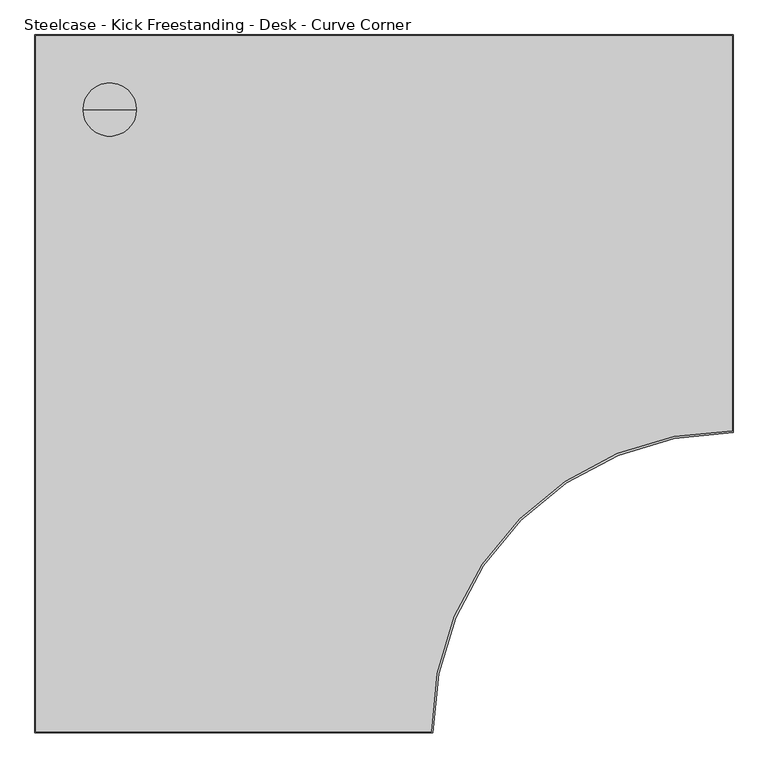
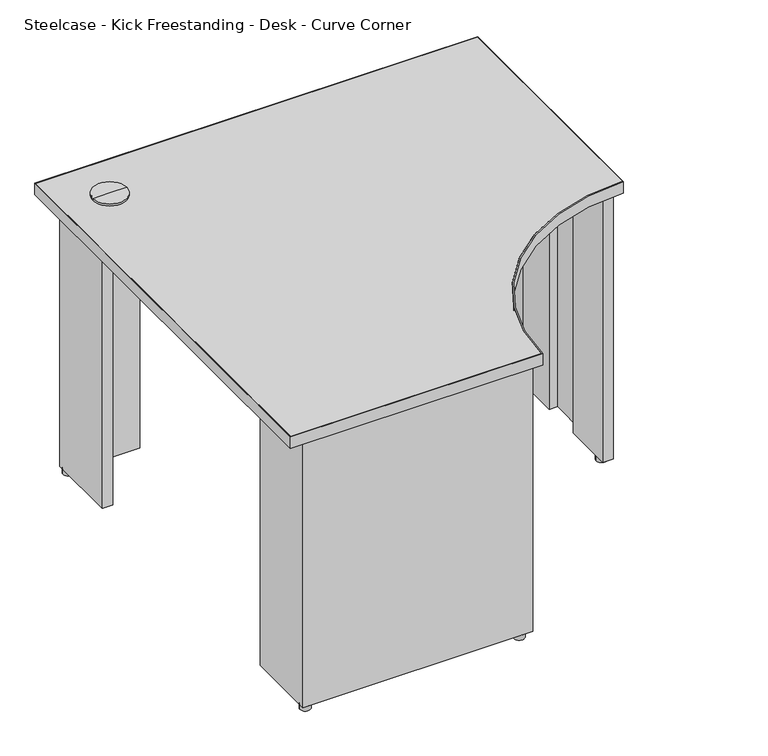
"""IFC4 building model written with IfcOpenShell, lengths in millimetres: furniture geometry, Steelcase - Kick Freestanding - Desk - Curve Corner : 24D x 42W - Two Full Panel - LPL."""

from ifc_helpers import new_model, si_unit, point, frame, frame_2d, origin, origin_with_axes, place, context, project, spatial, polyline, circle_curve, trimmed, segment, composite_curve, outline, extrude, source, transform, mapped, element, save
from ifc_brep_helpers import plane_surface, cylinder_surface, advanced_brep


def steelcase_kick_freestanding_desk_curve_corner_ed75282a(model_context):
    return source(origin(), model_context, "Body", "SolidModel", [
        extrude(outline(composite_curve([segment(trimmed(circle_curve(frame_2d((1038.8853521, -565.8064761)), 12.7), [point((1026.1853521, -565.8064761))], [point((1051.5853521, -565.8064761))], False, "CARTESIAN"), True, "CONTINUOUS"), segment(trimmed(circle_curve(frame_2d((1038.8853521, -565.8064761)), 12.7), [point((1051.5853521, -565.8064761))], [point((1026.1853521, -565.8064761))], False, "CARTESIAN"), True, "CONTINUOUS")], self_intersect=False)), origin_with_axes(), (0.0, 0.0, 1.0), 12.446),
        extrude(outline(composite_curve([segment(trimmed(circle_curve(frame_2d((566.7971133, -1039.8759893)), 12.7), [point((554.0971133, -1039.8759893))], [point((579.4971133, -1039.8759893))], False, "CARTESIAN"), True, "CONTINUOUS"), segment(trimmed(circle_curve(frame_2d((566.7971133, -1039.8759893)), 12.7), [point((579.4971133, -1039.8759893))], [point((554.0971133, -1039.8759893))], False, "CARTESIAN"), True, "CONTINUOUS")], self_intersect=False)), origin_with_axes(), (0.0, 0.0, 1.0), 12.446),
        extrude(outline(polyline([(215.8999939, -63.5), (63.5, -63.5), (63.5, -215.8999939), (38.1, -215.8999939), (38.1, -38.1), (215.8999939, -38.1), (215.8999939, -63.5)])), frame((0.0, 0.0, 12.446), z_axis=(0.0, 0.0, 1.0), x_axis=(1.0, 0.0, 0.0)), (0.0, 0.0, 1.0), 682.498),
        extrude(outline(polyline([(63.5, -875.0300194), (63.5, -1027.4300194), (161.3662, -1027.4300194), (161.3662, -1047.0895822), (261.0866, -1047.0895822), (261.0866, -1027.4300194), (369.824, -1027.4300194), (369.824, -1047.0895822), (469.5444, -1047.0895822), (469.5444, -1027.4300194), (592.582, -1027.4300194), (592.582, -1052.8299952), (38.1, -1052.8299952), (38.1, -875.0300194), (63.5, -875.0300194)])), frame((0.0, 0.0, 12.446), z_axis=(0.0, 0.0, 1.0), x_axis=(1.0, 0.0, 0.0)), (0.0, 0.0, 1.0), 682.498),
        extrude(outline(polyline([(874.0393822, -63.5), (874.0393822, -38.1), (1051.8393579, -38.1), (1051.8393579, -592.582), (1025.9313463, -592.582), (1025.9313463, -469.5444), (1046.098945, -469.5444), (1046.098945, -369.824), (1025.9313463, -369.824), (1025.9313463, -261.0866), (1046.098945, -261.0866), (1046.098945, -161.3662), (1025.9313463, -161.3662), (1025.9313463, -63.5), (874.0393822, -63.5)])), frame((0.0, 0.0, 12.446), z_axis=(0.0, 0.0, 1.0), x_axis=(1.0, 0.0, 0.0)), (0.0, 0.0, 1.0), 682.498),
        advanced_brep(
        [(114.3, -114.3, 728.98), (154.94, -114.3, 728.98), (73.66, -114.3, 728.98), (76.1699693, -114.3, 694.944), (152.4300307, -114.3, 694.944), (114.3, -114.3, 694.944), (76.1699693, -114.3, 723.9), (152.4300307, -114.3, 723.9), (73.66, -114.3, 723.9), (154.94, -114.3, 723.9)],
        [
            (0, 1),
            (1, 2, circle_curve(frame((114.3, -114.3, 728.98), z_axis=(0.0, 0.0, 1.0), x_axis=(1.0, 0.0, 0.0)), 40.64)),
            (2, 0),
            (2, 1, circle_curve(frame((114.3, -114.3, 728.98), z_axis=(0.0, 0.0, 1.0), x_axis=(1.0, 0.0, 0.0)), 40.64)),
            (3, 4, circle_curve(frame((114.3, -114.3, 694.944), z_axis=(0.0, 0.0, -1.0), x_axis=(1.0, 0.0, 0.0)), 38.1300307)),
            (4, 5),
            (5, 3),
            (4, 3, circle_curve(frame((114.3, -114.3, 694.944), z_axis=(0.0, 0.0, -1.0), x_axis=(1.0, 0.0, 0.0)), 38.1300307)),
            (6, 7, circle_curve(frame((114.3, -114.3, 723.9), z_axis=(0.0, 0.0, -1.0), x_axis=(1.0, 0.0, 0.0)), 38.1300307)),
            (7, 4),
            (3, 6),
            (7, 6, circle_curve(frame((114.3, -114.3, 723.9), z_axis=(0.0, 0.0, -1.0), x_axis=(1.0, 0.0, 0.0)), 38.1300307)),
            (8, 9, circle_curve(frame((114.3, -114.3, 723.9), z_axis=(0.0, 0.0, -1.0), x_axis=(1.0, 0.0, 0.0)), 40.64)),
            (9, 7),
            (6, 8),
            (9, 8, circle_curve(frame((114.3, -114.3, 723.9), z_axis=(0.0, 0.0, -1.0), x_axis=(1.0, 0.0, 0.0)), 40.64)),
            (1, 9),
            (8, 2),
        ],
        [
            plane_surface(frame((114.3, -114.3, 728.98), z_axis=(0.0, 0.0, 1.0), x_axis=(1.0, 0.0, 0.0))),
            plane_surface(frame((114.3, -114.3, 694.944), z_axis=(0.0, 0.0, -1.0), x_axis=(1.0, 0.0, 0.0))),
            cylinder_surface(frame((114.3, -114.3, 728.98), z_axis=(0.0, 0.0, 1.0), x_axis=(1.0, 0.0, 0.0)), 38.1300307),
            plane_surface(frame((114.3, -114.3, 723.9), z_axis=(0.0, 0.0, -1.0), x_axis=(1.0, 0.0, 0.0))),
            cylinder_surface(frame((114.3, -114.3, 728.98), z_axis=(0.0, 0.0, 1.0), x_axis=(1.0, 0.0, 0.0)), 40.64),
        ],
        [
            (0, [[1, 2, 3]]),
            (0, [[-3, 4, -1]]),
            (1, [[5, 6, 7]]),
            (1, [[8, -7, -6]]),
            (2, [[9, 10, -5, 11]]),
            (2, [[12, -11, -8, -10]]),
            (3, [[13, 14, -9, 15]]),
            (3, [[16, -15, -12, -14]]),
            (4, [[-2, 17, -13, 18]]),
            (4, [[-4, -18, -16, -17]]),
        ],
    ),
        extrude(outline(composite_curve([segment(trimmed(circle_curve(frame_2d((50.8, -50.8)), 12.7), [point((38.1, -50.8))], [point((63.5, -50.8))], False, "CARTESIAN"), True, "CONTINUOUS"), segment(trimmed(circle_curve(frame_2d((50.8, -50.8)), 12.7), [point((63.5, -50.8))], [point((38.1, -50.8))], False, "CARTESIAN"), True, "CONTINUOUS")], self_intersect=False)), origin_with_axes(), (0.0, 0.0, 1.0), 12.446),
        extrude(outline(composite_curve([segment(trimmed(circle_curve(frame_2d((50.8, -1040.1300073)), 12.7484998), [point((38.0515002, -1040.1300073))], [point((63.5484998, -1040.1300073))], False, "CARTESIAN"), True, "CONTINUOUS"), segment(trimmed(circle_curve(frame_2d((50.8, -1040.1300073)), 12.7484998), [point((63.5484998, -1040.1300073))], [point((38.0515002, -1040.1300073))], False, "CARTESIAN"), True, "CONTINUOUS")], self_intersect=False)), origin_with_axes(), (0.0, 0.0, 1.0), 12.446),
        extrude(outline(composite_curve([segment(trimmed(circle_curve(frame_2d((1038.8853521, -50.8)), 12.7), [point((1026.1853521, -50.8))], [point((1051.5853521, -50.8))], False, "CARTESIAN"), True, "CONTINUOUS"), segment(trimmed(circle_curve(frame_2d((1038.8853521, -50.8)), 12.7), [point((1051.5853521, -50.8))], [point((1026.1853521, -50.8))], False, "CARTESIAN"), True, "CONTINUOUS")], self_intersect=False)), origin_with_axes(), (0.0, 0.0, 1.0), 12.446),
        extrude(outline(composite_curve([segment(polyline([(0.9906, -1065.8093628), (0.9906, -0.9906), (1065.8093628, -0.9906), (1065.8093628, -605.3354109)]), True, "CONTINUOUS"), segment(trimmed(circle_curve(frame_2d((1064.5393458, -1064.5393458)), 459.2056912), [point((1065.8093628, -605.3354109))], [point((605.3354109, -1065.8093628))], True, "CARTESIAN"), True, "CONTINUOUS"), segment(polyline([(605.3354109, -1065.8093628), (0.9906, -1065.8093628)]), True, "CONTINUOUS")], self_intersect=False)), frame((0.0, 0.0, 694.944), z_axis=(0.0, 0.0, 1.0), x_axis=(1.0, 0.0, 0.0)), (0.0, 0.0, 1.0), 28.956),
        extrude(outline(composite_curve([segment(polyline([(1066.8, 0.0), (1066.8, -608.332629)]), True, "CONTINUOUS"), segment(trimmed(circle_curve(frame_2d((1065.529983, -1065.529983)), 457.199118), [point((1066.8, -608.332629))], [point((608.332629, -1066.8))], True, "CARTESIAN"), True, "CONTINUOUS"), segment(polyline([(608.332629, -1066.8), (0.0, -1066.8), (0.0, 0.0), (1066.8, 0.0)]), True, "CONTINUOUS")], self_intersect=False), holes=[composite_curve([segment(polyline([(1065.8093628, -0.9906), (0.9906, -0.9906), (0.9906, -1065.8093628), (605.3354109, -1065.8093628)]), True, "CONTINUOUS"), segment(trimmed(circle_curve(frame_2d((1064.5393458, -1064.5393458)), 459.2056912), [point((605.3354109, -1065.8093628))], [point((1065.8093628, -605.3354109))], False, "CARTESIAN"), True, "CONTINUOUS"), segment(polyline([(1065.8093628, -605.3354109), (1065.8093628, -0.9906)]), True, "CONTINUOUS")], self_intersect=False)]), frame((0.0, 0.0, 694.944), z_axis=(0.0, 0.0, 1.0), x_axis=(1.0, 0.0, 0.0)), (0.0, 0.0, 1.0), 28.956),
    ])


if __name__ == "__main__":
    model = new_model("IFC4")
    model_context = context("Model", 3, world=origin())
    ifc_project = project(units=[si_unit("LENGTHUNIT", "METRE", prefix="MILLI")], contexts=[model_context])
    site = spatial("IfcSite", under=ifc_project)
    building = spatial("IfcBuilding", under=site)
    placement = place(None, origin())
    steelcase_kick_freestanding_desk_curve_corner_shape = steelcase_kick_freestanding_desk_curve_corner_ed75282a(model_context)
    element("IfcFurniture", 1, ObjectType="Steelcase - Kick Freestanding - Desk - Curve Corner : 24D x 42W - Two Full Panel - LPL", at=placement, inside=building, context=model_context, shape_type="MappedRepresentation", body=[
        mapped(steelcase_kick_freestanding_desk_curve_corner_shape, transform((0.0, 0.0, 0.0), x_axis=(1.0, 0.0, 0.0), y_axis=(0.0, 1.0, 0.0), z_axis=(0.0, 0.0, 1.0))),
    ])
    save(model, "model.ifc")
